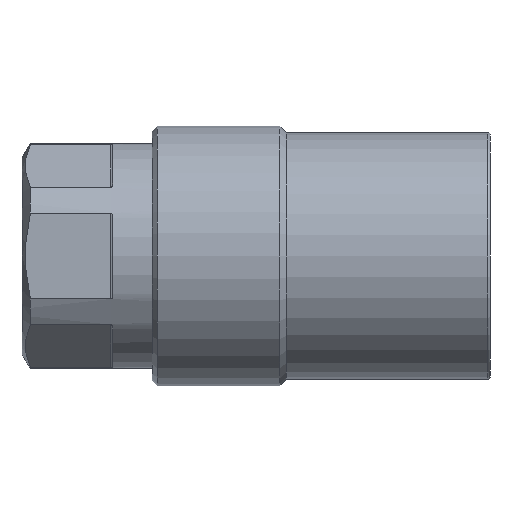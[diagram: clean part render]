
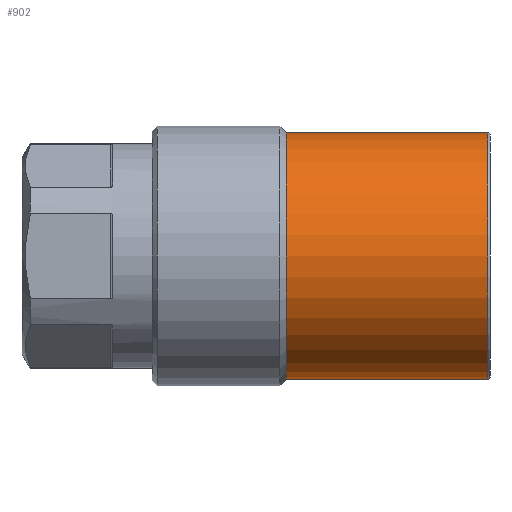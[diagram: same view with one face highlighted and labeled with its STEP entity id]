
A CAD part, left-side view. The second image highlights one B-rep face of the part: STEP entity #902.
In plain terms, the highlighted cylindrical face has radius 15.062 mm (diameter 30.124 mm), a partial arc.
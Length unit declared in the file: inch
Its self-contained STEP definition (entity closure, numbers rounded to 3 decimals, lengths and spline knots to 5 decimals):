
#42 = DIRECTION ( 'NONE',  ( 0., -1., 0. ) ) ;
#58 = ORIENTED_EDGE ( 'NONE', *, *, #1461, .T. ) ;
#122 = DIRECTION ( 'NONE',  ( 0., -1., 0. ) ) ;
#217 = CARTESIAN_POINT ( 'NONE',  ( 0., 0.48925, 0.593 ) ) ;
#386 = VECTOR ( 'NONE', #1578, 39.37008 ) ;
#475 = VERTEX_POINT ( 'NONE', #727 ) ;
#487 = EDGE_LOOP ( 'NONE', ( #2275, #515, #58, #1372 ) ) ;
#515 = ORIENTED_EDGE ( 'NONE', *, *, #1297, .T. ) ;
#550 = CARTESIAN_POINT ( 'NONE',  ( 0., 0.9785, -0.593 ) ) ;
#699 = FACE_OUTER_BOUND ( 'NONE', #487, .T. ) ;
#724 = AXIS2_PLACEMENT_3D ( 'NONE', #2470, #1639, #1138 ) ;
#727 = CARTESIAN_POINT ( 'NONE',  ( 0., 0.9785, 0.593 ) ) ;
#902 = ADVANCED_FACE ( 'NONE', ( #699 ), #903, .T. ) ;
#903 = CYLINDRICAL_SURFACE ( 'NONE', #724, 0.593 ) ;
#998 = CIRCLE ( 'NONE', #1931, 0.593 ) ;
#1080 = AXIS2_PLACEMENT_3D ( 'NONE', #1543, #42, #1935 ) ;
#1138 = DIRECTION ( 'NONE',  ( 0., 0., -1. ) ) ;
#1225 = CARTESIAN_POINT ( 'NONE',  ( 0., 0.01, -0.593 ) ) ;
#1262 = LINE ( 'NONE', #217, #386 ) ;
#1297 = EDGE_CURVE ( 'NONE', #475, #2172, #1350, .T. ) ;
#1350 = CIRCLE ( 'NONE', #1080, 0.593 ) ;
#1372 = ORIENTED_EDGE ( 'NONE', *, *, #2396, .F. ) ;
#1461 = EDGE_CURVE ( 'NONE', #2172, #2564, #2604, .T. ) ;
#1527 = VERTEX_POINT ( 'NONE', #2634 ) ;
#1543 = CARTESIAN_POINT ( 'NONE',  ( 0., 0.9785, 0. ) ) ;
#1578 = DIRECTION ( 'NONE',  ( 0., -1., 0. ) ) ;
#1639 = DIRECTION ( 'NONE',  ( 0., -1., 0. ) ) ;
#1879 = VECTOR ( 'NONE', #122, 39.37008 ) ;
#1931 = AXIS2_PLACEMENT_3D ( 'NONE', #2498, #2265, #2238 ) ;
#1935 = DIRECTION ( 'NONE',  ( 1., 0., 0. ) ) ;
#2017 = CARTESIAN_POINT ( 'NONE',  ( 0., 0.48925, -0.593 ) ) ;
#2113 = EDGE_CURVE ( 'NONE', #475, #1527, #1262, .T. ) ;
#2172 = VERTEX_POINT ( 'NONE', #550 ) ;
#2238 = DIRECTION ( 'NONE',  ( 0., 0., 1. ) ) ;
#2265 = DIRECTION ( 'NONE',  ( 0., -1., 0. ) ) ;
#2275 = ORIENTED_EDGE ( 'NONE', *, *, #2113, .F. ) ;
#2396 = EDGE_CURVE ( 'NONE', #1527, #2564, #998, .T. ) ;
#2470 = CARTESIAN_POINT ( 'NONE',  ( 0., 0.48925, 0. ) ) ;
#2498 = CARTESIAN_POINT ( 'NONE',  ( 0., 0.01, 0. ) ) ;
#2564 = VERTEX_POINT ( 'NONE', #1225 ) ;
#2604 = LINE ( 'NONE', #2017, #1879 ) ;
#2634 = CARTESIAN_POINT ( 'NONE',  ( 0., 0.01, 0.593 ) ) ;
